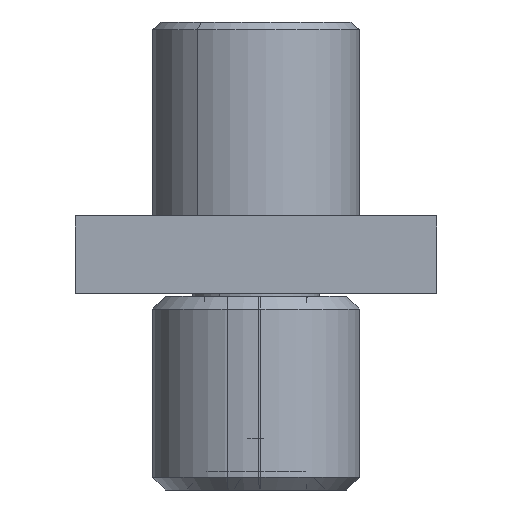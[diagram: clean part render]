
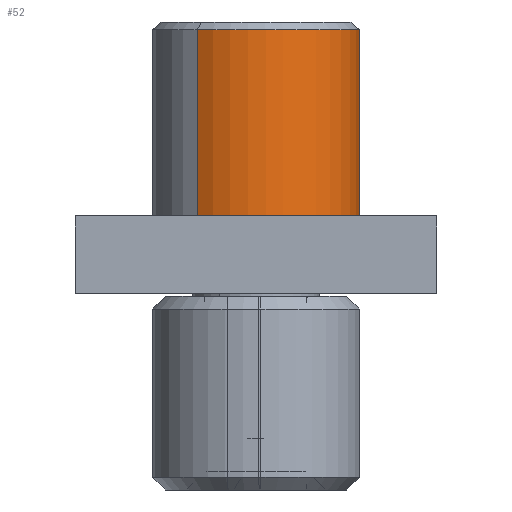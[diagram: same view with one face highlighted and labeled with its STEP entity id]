
A CAD part, left-side view. The second image highlights one B-rep face of the part: STEP entity #52.
In plain terms, the highlighted cylindrical face has radius 4 mm (diameter 8 mm), a partial arc.
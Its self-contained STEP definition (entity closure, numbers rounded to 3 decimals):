
#2 = CARTESIAN_POINT ( 'NONE',  ( 0., 0., -0.3 ) ) ;
#30 = VERTEX_POINT ( 'NONE', #369 ) ;
#52 = ADVANCED_FACE ( 'NONE', ( #191 ), #749, .T. ) ;
#84 = CARTESIAN_POINT ( 'NONE',  ( 0., 0., -7.5 ) ) ;
#101 = DIRECTION ( 'NONE',  ( 0., 1., 0. ) ) ;
#166 = DIRECTION ( 'NONE',  ( 0., 0., -1. ) ) ;
#176 = EDGE_CURVE ( 'NONE', #516, #1108, #1126, .T. ) ;
#185 = DIRECTION ( 'NONE',  ( 0., 0., -1. ) ) ;
#191 = FACE_OUTER_BOUND ( 'NONE', #495, .T. ) ;
#219 = AXIS2_PLACEMENT_3D ( 'NONE', #84, #185, #965 ) ;
#224 = EDGE_CURVE ( 'NONE', #30, #623, #459, .T. ) ;
#233 = CARTESIAN_POINT ( 'NONE',  ( 0., 4., -7.5 ) ) ;
#239 = CARTESIAN_POINT ( 'NONE',  ( 0., -4., -7.5 ) ) ;
#243 = CARTESIAN_POINT ( 'NONE',  ( 0., 0., -18.1 ) ) ;
#300 = EDGE_CURVE ( 'NONE', #623, #1108, #1241, .T. ) ;
#361 = ORIENTED_EDGE ( 'NONE', *, *, #176, .T. ) ;
#369 = CARTESIAN_POINT ( 'NONE',  ( 0., -4., -0.3 ) ) ;
#380 = CIRCLE ( 'NONE', #1393, 4. ) ;
#453 = AXIS2_PLACEMENT_3D ( 'NONE', #243, #1145, #1127 ) ;
#459 = LINE ( 'NONE', #1388, #1309 ) ;
#495 = EDGE_LOOP ( 'NONE', ( #936, #1418, #361, #1342 ) ) ;
#503 = DIRECTION ( 'NONE',  ( 0., 0., -1. ) ) ;
#516 = VERTEX_POINT ( 'NONE', #777 ) ;
#623 = VERTEX_POINT ( 'NONE', #239 ) ;
#719 = CARTESIAN_POINT ( 'NONE',  ( 0., 4., -18.1 ) ) ;
#749 = CYLINDRICAL_SURFACE ( 'NONE', #453, 4. ) ;
#767 = DIRECTION ( 'NONE',  ( 0., 0., -1. ) ) ;
#777 = CARTESIAN_POINT ( 'NONE',  ( 0., 4., -0.3 ) ) ;
#936 = ORIENTED_EDGE ( 'NONE', *, *, #224, .F. ) ;
#965 = DIRECTION ( 'NONE',  ( 0., 1., 0. ) ) ;
#981 = EDGE_CURVE ( 'NONE', #30, #516, #380, .T. ) ;
#1093 = VECTOR ( 'NONE', #166, 1000. ) ;
#1108 = VERTEX_POINT ( 'NONE', #233 ) ;
#1126 = LINE ( 'NONE', #719, #1093 ) ;
#1127 = DIRECTION ( 'NONE',  ( 0., 1., 0. ) ) ;
#1145 = DIRECTION ( 'NONE',  ( 0., 0., -1. ) ) ;
#1241 = CIRCLE ( 'NONE', #219, 4. ) ;
#1309 = VECTOR ( 'NONE', #503, 1000. ) ;
#1342 = ORIENTED_EDGE ( 'NONE', *, *, #300, .F. ) ;
#1388 = CARTESIAN_POINT ( 'NONE',  ( 0., -4., -18.1 ) ) ;
#1393 = AXIS2_PLACEMENT_3D ( 'NONE', #2, #767, #101 ) ;
#1418 = ORIENTED_EDGE ( 'NONE', *, *, #981, .T. ) ;
